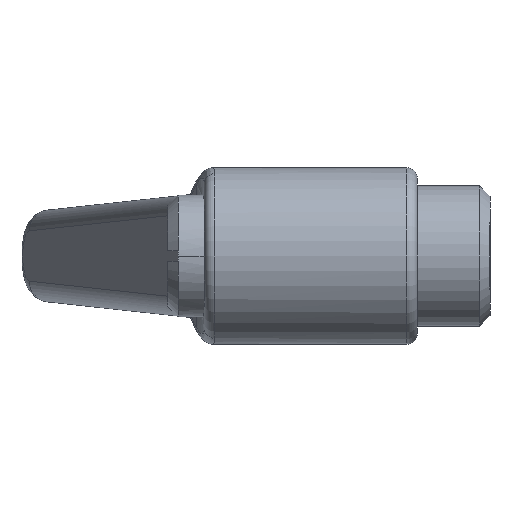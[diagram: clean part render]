
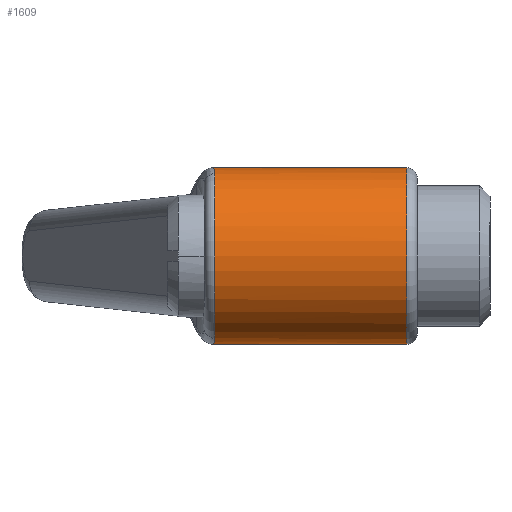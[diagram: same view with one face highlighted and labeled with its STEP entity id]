
A CAD part, left-side view. The second image highlights one B-rep face of the part: STEP entity #1609.
In plain terms, the highlighted cylindrical face has radius 8.5 mm (diameter 17 mm), a partial arc.
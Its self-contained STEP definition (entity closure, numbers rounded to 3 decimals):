
#293 = CARTESIAN_POINT ( 'NONE',  ( 0., -19.5, 8.5 ) ) ;
#413 = DIRECTION ( 'NONE',  ( 0., -1., 0. ) ) ;
#436 = CARTESIAN_POINT ( 'NONE',  ( 0., 20.5, 0. ) ) ;
#446 = VERTEX_POINT ( 'NONE', #2071 ) ;
#447 = EDGE_CURVE ( 'NONE', #951, #1955, #914, .T. ) ;
#462 = DIRECTION ( 'NONE',  ( 0., 0., -1. ) ) ;
#465 = CARTESIAN_POINT ( 'NONE',  ( 0., -19.5, 0. ) ) ;
#466 = CIRCLE ( 'NONE', #1337, 8.5 ) ;
#470 = CIRCLE ( 'NONE', #1460, 8.5 ) ;
#489 = DIRECTION ( 'NONE',  ( 0., 1., 0. ) ) ;
#663 = CYLINDRICAL_SURFACE ( 'NONE', #1311, 8.5 ) ;
#685 = FACE_OUTER_BOUND ( 'NONE', #1247, .T. ) ;
#756 = CARTESIAN_POINT ( 'NONE',  ( -3.103, -1., 7.913 ) ) ;
#764 = CARTESIAN_POINT ( 'NONE',  ( -2.605, -1., 8.109 ) ) ;
#768 = CARTESIAN_POINT ( 'NONE',  ( -2.088, -0.986, 8.257 ) ) ;
#776 = CARTESIAN_POINT ( 'NONE',  ( -1.049, -0.927, 8.452 ) ) ;
#784 = CARTESIAN_POINT ( 'NONE',  ( -1.058, -0.924, -8.438 ) ) ;
#802 = CARTESIAN_POINT ( 'NONE',  ( 0., -0.821, -8.5 ) ) ;
#817 = CARTESIAN_POINT ( 'NONE',  ( 0., 20.5, 8.5 ) ) ;
#825 = CARTESIAN_POINT ( 'NONE',  ( -3.103, -1., -7.913 ) ) ;
#829 = EDGE_CURVE ( 'NONE', #1686, #1517, #895, .T. ) ;
#874 = CARTESIAN_POINT ( 'NONE',  ( -0.526, -0.882, 8.5 ) ) ;
#884 = CARTESIAN_POINT ( 'NONE',  ( 0., -0.821, 8.5 ) ) ;
#893 = VECTOR ( 'NONE', #2114, 1000. ) ;
#895 = LINE ( 'NONE', #2156, #893 ) ;
#898 = VECTOR ( 'NONE', #2139, 1000. ) ;
#914 = LINE ( 'NONE', #817, #898 ) ;
#951 = VERTEX_POINT ( 'NONE', #1929 ) ;
#986 = ORIENTED_EDGE ( 'NONE', *, *, #447, .F. ) ;
#1002 = CARTESIAN_POINT ( 'NONE',  ( -2.097, -0.986, -8.254 ) ) ;
#1005 = ORIENTED_EDGE ( 'NONE', *, *, #2110, .T. ) ;
#1093 = ORIENTED_EDGE ( 'NONE', *, *, #829, .T. ) ;
#1166 = DIRECTION ( 'NONE',  ( 0., 0., 1. ) ) ;
#1188 = CARTESIAN_POINT ( 'NONE',  ( 0., -1., 0. ) ) ;
#1213 = ORIENTED_EDGE ( 'NONE', *, *, #1940, .T. ) ;
#1247 = EDGE_LOOP ( 'NONE', ( #986, #1005, #1751, #1213, #1093, #1353 ) ) ;
#1263 = B_SPLINE_CURVE_WITH_KNOTS ( 'NONE', 3,
 ( #884, #874, #776, #768, #764, #756 ),
 .UNSPECIFIED., .F., .F.,
 ( 4, 2, 4 ),
 ( 0.003, 0.005, 0.007 ),
 .UNSPECIFIED. ) ;
#1276 = CARTESIAN_POINT ( 'NONE',  ( -0.264, -0.851, -8.5 ) ) ;
#1311 = AXIS2_PLACEMENT_3D ( 'NONE', #436, #413, #462 ) ;
#1327 = CARTESIAN_POINT ( 'NONE',  ( 0., -0.821, -8.5 ) ) ;
#1336 = CARTESIAN_POINT ( 'NONE',  ( -3.103, -1., 7.913 ) ) ;
#1337 = AXIS2_PLACEMENT_3D ( 'NONE', #465, #489, #1166 ) ;
#1353 = ORIENTED_EDGE ( 'NONE', *, *, #1942, .T. ) ;
#1358 = CARTESIAN_POINT ( 'NONE',  ( -2.605, -1., -8.109 ) ) ;
#1374 = CARTESIAN_POINT ( 'NONE',  ( 0., -19.5, -8.5 ) ) ;
#1460 = AXIS2_PLACEMENT_3D ( 'NONE', #1188, #1679, #1590 ) ;
#1487 = CARTESIAN_POINT ( 'NONE',  ( -0.531, -0.878, -8.488 ) ) ;
#1517 = VERTEX_POINT ( 'NONE', #1374 ) ;
#1590 = DIRECTION ( 'NONE',  ( 0., 0., -1. ) ) ;
#1604 = CARTESIAN_POINT ( 'NONE',  ( -1.32, -0.942, -8.401 ) ) ;
#1609 = ADVANCED_FACE ( 'NONE', ( #685 ), #663, .T. ) ;
#1679 = DIRECTION ( 'NONE',  ( 0., -1., 0. ) ) ;
#1686 = VERTEX_POINT ( 'NONE', #802 ) ;
#1751 = ORIENTED_EDGE ( 'NONE', *, *, #1936, .T. ) ;
#1864 = VERTEX_POINT ( 'NONE', #1336 ) ;
#1929 = CARTESIAN_POINT ( 'NONE',  ( 0., -0.821, 8.5 ) ) ;
#1936 = EDGE_CURVE ( 'NONE', #1864, #446, #470, .T. ) ;
#1940 = EDGE_CURVE ( 'NONE', #446, #1686, #2033, .T. ) ;
#1942 = EDGE_CURVE ( 'NONE', #1517, #1955, #466, .T. ) ;
#1955 = VERTEX_POINT ( 'NONE', #293 ) ;
#2033 = B_SPLINE_CURVE_WITH_KNOTS ( 'NONE', 3,
 ( #825, #1358, #1002, #1604, #784, #1487, #1276, #1327 ),
 .UNSPECIFIED., .F., .F.,
 ( 4, 2, 2, 4 ),
 ( 0., 0.002, 0.002, 0.003 ),
 .UNSPECIFIED. ) ;
#2071 = CARTESIAN_POINT ( 'NONE',  ( -3.103, -1., -7.913 ) ) ;
#2110 = EDGE_CURVE ( 'NONE', #951, #1864, #1263, .T. ) ;
#2114 = DIRECTION ( 'NONE',  ( 0., -1., 0. ) ) ;
#2139 = DIRECTION ( 'NONE',  ( 0., -1., 0. ) ) ;
#2156 = CARTESIAN_POINT ( 'NONE',  ( 0., 20.5, -8.5 ) ) ;
